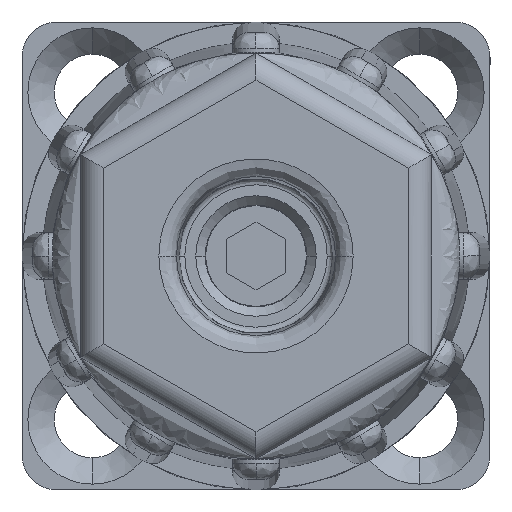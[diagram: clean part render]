
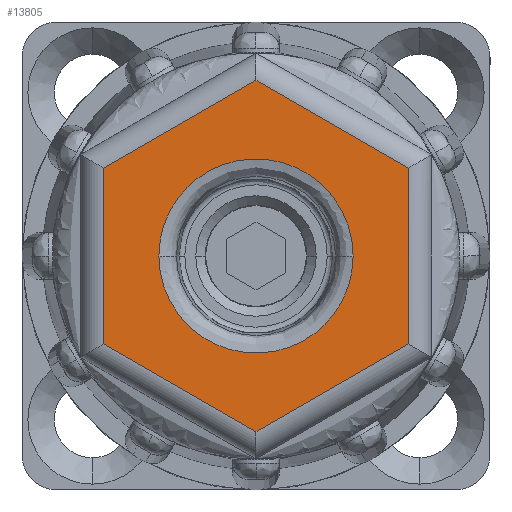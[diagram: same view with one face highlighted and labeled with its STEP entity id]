
A CAD part, front view. The second image highlights one B-rep face of the part: STEP entity #13805.
In plain terms, the highlighted planar face has unit normal (0, -1, 0).
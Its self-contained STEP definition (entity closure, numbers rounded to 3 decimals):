
#719 = EDGE_CURVE ( 'NONE', #9493, #12560, #5811, .T. ) ;
#792 = VECTOR ( 'NONE', #4038, 1000. ) ;
#1262 = ORIENTED_EDGE ( 'NONE', *, *, #6362, .F. ) ;
#1737 = CARTESIAN_POINT ( 'NONE',  ( 8.299, -30.754, 24.246 ) ) ;
#1797 = LINE ( 'NONE', #13834, #4659 ) ;
#1817 = CARTESIAN_POINT ( 'NONE',  ( 15., -30.754, 32.906 ) ) ;
#2225 = EDGE_CURVE ( 'NONE', #7450, #15125, #3188, .T. ) ;
#2352 = LINE ( 'NONE', #9719, #8405 ) ;
#2454 = DIRECTION ( 'NONE',  ( -0.866, 0., -0.5 ) ) ;
#2486 = FACE_OUTER_BOUND ( 'NONE', #8001, .T. ) ;
#2563 = VECTOR ( 'NONE', #2454, 1000. ) ;
#2697 = CARTESIAN_POINT ( 'NONE',  ( 13., -30.754, 16.74 ) ) ;
#3031 = DIRECTION ( 'NONE',  ( -1., 0., 0. ) ) ;
#3188 = LINE ( 'NONE', #7361, #6394 ) ;
#3456 = AXIS2_PLACEMENT_3D ( 'NONE', #1817, #13832, #3031 ) ;
#3693 = DIRECTION ( 'NONE',  ( 0., 0., -1. ) ) ;
#3784 = DIRECTION ( 'NONE',  ( 0., 0., 1. ) ) ;
#4038 = DIRECTION ( 'NONE',  ( -0.866, 0., 0.5 ) ) ;
#4046 = ORIENTED_EDGE ( 'NONE', *, *, #13717, .F. ) ;
#4504 = CARTESIAN_POINT ( 'NONE',  ( 0., -30.754, 9.235 ) ) ;
#4659 = VECTOR ( 'NONE', #6619, 1000. ) ;
#4956 = CARTESIAN_POINT ( 'NONE',  ( 21.5, -30.754, 21.648 ) ) ;
#5114 = ORIENTED_EDGE ( 'NONE', *, *, #10516, .F. ) ;
#5390 = ORIENTED_EDGE ( 'NONE', *, *, #719, .F. ) ;
#5632 = ORIENTED_EDGE ( 'NONE', *, *, #11457, .F. ) ;
#5811 =( BOUNDED_CURVE ( )  B_SPLINE_CURVE ( 3, ( #13041, #6996, #9437, #5853 ),
 .UNSPECIFIED., .F., .F. ) 
 B_SPLINE_CURVE_WITH_KNOTS ( ( 4, 4 ),
 ( 0., 1. ),
 .UNSPECIFIED. ) 
 CURVE ( )  GEOMETRIC_REPRESENTATION_ITEM ( )  RATIONAL_B_SPLINE_CURVE ( ( 1., 0.333, 0.333, 1. ) ) 
 REPRESENTATION_ITEM ( '' )  );
#5853 = CARTESIAN_POINT ( 'NONE',  ( -8.299, -30.754, 24.246 ) ) ;
#6362 = EDGE_CURVE ( 'NONE', #15125, #13304, #9518, .T. ) ;
#6394 = VECTOR ( 'NONE', #3784, 1000. ) ;
#6619 = DIRECTION ( 'NONE',  ( 0.866, 0., -0.5 ) ) ;
#6660 =( BOUNDED_CURVE ( )  B_SPLINE_CURVE ( 3, ( #12533, #7750, #8990, #1737 ),
 .UNSPECIFIED., .F., .F. ) 
 B_SPLINE_CURVE_WITH_KNOTS ( ( 4, 4 ),
 ( 0., 1. ),
 .UNSPECIFIED. ) 
 CURVE ( )  GEOMETRIC_REPRESENTATION_ITEM ( )  RATIONAL_B_SPLINE_CURVE ( ( 1., 0.333, 0.333, 1. ) ) 
 REPRESENTATION_ITEM ( '' )  );
#6996 = CARTESIAN_POINT ( 'NONE',  ( 8.299, -30.754, 40.843 ) ) ;
#7361 = CARTESIAN_POINT ( 'NONE',  ( -13., -30.754, 32.906 ) ) ;
#7450 = VERTEX_POINT ( 'NONE', #13254 ) ;
#7505 = CARTESIAN_POINT ( 'NONE',  ( 8.5, -30.754, 44.164 ) ) ;
#7555 = DIRECTION ( 'NONE',  ( 0.866, 0., 0.5 ) ) ;
#7673 = ORIENTED_EDGE ( 'NONE', *, *, #9457, .F. ) ;
#7750 = CARTESIAN_POINT ( 'NONE',  ( -8.299, -30.754, 7.649 ) ) ;
#7863 = EDGE_LOOP ( 'NONE', ( #7673, #5390 ) ) ;
#7930 = VERTEX_POINT ( 'NONE', #2697 ) ;
#8001 = EDGE_LOOP ( 'NONE', ( #5632, #5114, #1262, #14330, #4046, #8622 ) ) ;
#8405 = VECTOR ( 'NONE', #3693, 1000. ) ;
#8622 = ORIENTED_EDGE ( 'NONE', *, *, #10437, .F. ) ;
#8990 = CARTESIAN_POINT ( 'NONE',  ( 8.299, -30.754, 7.649 ) ) ;
#9065 = PLANE ( 'NONE',  #3456 ) ;
#9095 = CARTESIAN_POINT ( 'NONE',  ( 8.299, -30.754, 24.246 ) ) ;
#9437 = CARTESIAN_POINT ( 'NONE',  ( -8.299, -30.754, 40.843 ) ) ;
#9457 = EDGE_CURVE ( 'NONE', #12560, #9493, #6660, .T. ) ;
#9493 = VERTEX_POINT ( 'NONE', #9095 ) ;
#9518 = LINE ( 'NONE', #7505, #15505 ) ;
#9719 = CARTESIAN_POINT ( 'NONE',  ( 13., -30.754, 32.906 ) ) ;
#10012 = CARTESIAN_POINT ( 'NONE',  ( -8.299, -30.754, 24.246 ) ) ;
#10437 = EDGE_CURVE ( 'NONE', #7930, #14656, #11828, .T. ) ;
#10516 = EDGE_CURVE ( 'NONE', #13304, #12640, #1797, .T. ) ;
#11457 = EDGE_CURVE ( 'NONE', #12640, #7930, #2352, .T. ) ;
#11828 = LINE ( 'NONE', #4956, #2563 ) ;
#12533 = CARTESIAN_POINT ( 'NONE',  ( -8.299, -30.754, 24.246 ) ) ;
#12560 = VERTEX_POINT ( 'NONE', #10012 ) ;
#12640 = VERTEX_POINT ( 'NONE', #13711 ) ;
#12771 = CARTESIAN_POINT ( 'NONE',  ( -13., -30.754, 31.751 ) ) ;
#13041 = CARTESIAN_POINT ( 'NONE',  ( 8.299, -30.754, 24.246 ) ) ;
#13224 = LINE ( 'NONE', #13675, #792 ) ;
#13254 = CARTESIAN_POINT ( 'NONE',  ( -13., -30.754, 16.74 ) ) ;
#13304 = VERTEX_POINT ( 'NONE', #14079 ) ;
#13675 = CARTESIAN_POINT ( 'NONE',  ( 1., -30.754, 8.657 ) ) ;
#13711 = CARTESIAN_POINT ( 'NONE',  ( 13., -30.754, 31.751 ) ) ;
#13717 = EDGE_CURVE ( 'NONE', #14656, #7450, #13224, .T. ) ;
#13805 = ADVANCED_FACE ( 'NONE', ( #14914, #2486 ), #9065, .F. ) ;
#13832 = DIRECTION ( 'NONE',  ( 0., 1., 0. ) ) ;
#13834 = CARTESIAN_POINT ( 'NONE',  ( 14., -30.754, 31.174 ) ) ;
#14079 = CARTESIAN_POINT ( 'NONE',  ( 0., -30.754, 39.257 ) ) ;
#14330 = ORIENTED_EDGE ( 'NONE', *, *, #2225, .F. ) ;
#14656 = VERTEX_POINT ( 'NONE', #4504 ) ;
#14914 = FACE_BOUND ( 'NONE', #7863, .T. ) ;
#15125 = VERTEX_POINT ( 'NONE', #12771 ) ;
#15505 = VECTOR ( 'NONE', #7555, 1000. ) ;
